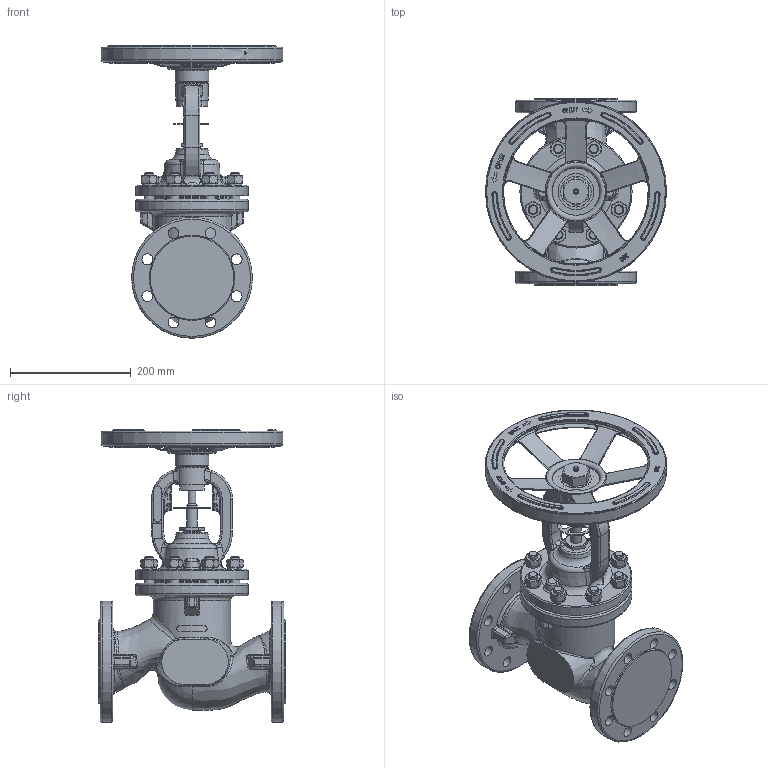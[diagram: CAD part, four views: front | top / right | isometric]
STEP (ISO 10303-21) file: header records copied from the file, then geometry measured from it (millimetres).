
FILE_DESCRIPTION(/* description */ (''),/* implementation_level */ '2;1');
FILE_NAME(/* name */ 'ZV226E_DN80_PN40.stp',/* time_stamp */ '2014-10-01T05:38:41+02:00',/* author */ (''),/* organization */ (''),/* preprocessor_version */ 'ST-DEVELOPER v15',/* originating_system */ 'SIEMENS PLM Software NX 8.5',/* authorisation */ '');
FILE_SCHEMA (('AP203_CONFIGURATION_CONTROLLED_3D_DESIGN_OF_MECHANICAL_PARTS_AND_ASSEMBLIES_MIM_LF { 1 0 10303 403 2 1 2}'));
Products named in the file (1): adam0D0CD2F3qxct
Bounding box: 300 x 310 x 484.2 mm (x, y, z)
Volume: 6694239.2 mm3; surface area: 604997 mm2
Topology: 1 solids, 1 shells, 1280 faces, 3078 edges, 1831 vertices
Faces by surface type: plane 406, cylinder 261, bspline 240, torus 163, cone 153, sphere 30, extrusion 27
Full cylindrical faces by diameter (mm): 3 x4, 4 x1, 6 x4, 7 x1, 13 x1, 16 x25, 18 x18, 27.7 x1, 38 x1, 40 x1, 50 x2, 51 x1, 51.2 x1, 54 x1, 55.5 x1, 120 x1, 128 x1, 132 x2, 138 x2, 186 x2, 200 x2, 240 x1, 243 x1, 297 x1, 300 x1
Entity records: 59007 total; most frequent: CARTESIAN_POINT 32192, ORIENTED_EDGE 5732, DIRECTION 5072, EDGE_CURVE 2866, AXIS2_PLACEMENT_3D 2142, VERTEX_POINT 1783, EDGE_LOOP 1559, ADVANCED_FACE 1280
